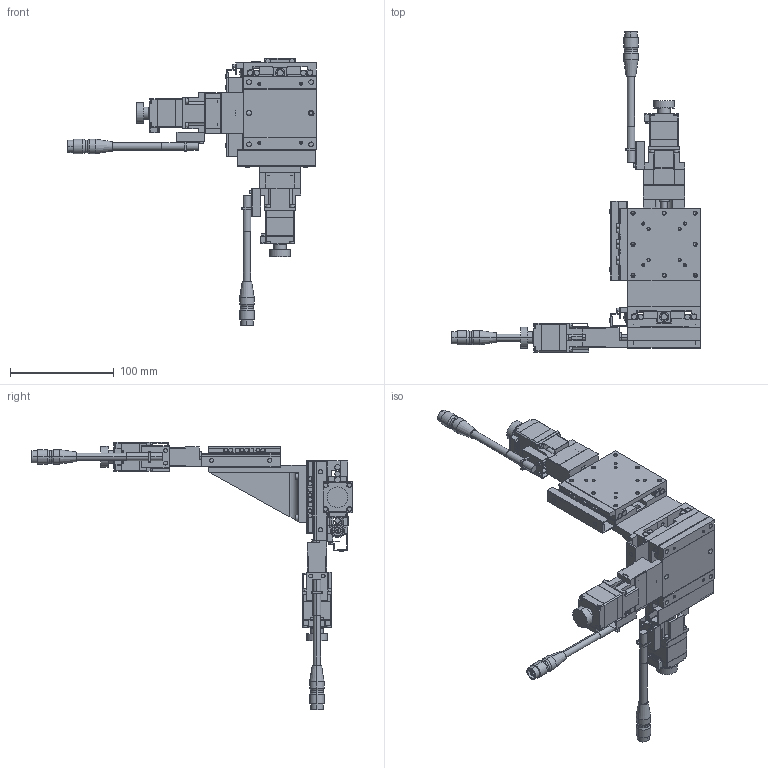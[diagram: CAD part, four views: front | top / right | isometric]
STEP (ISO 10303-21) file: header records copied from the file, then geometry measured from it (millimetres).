
FILE_DESCRIPTION(('STEP AP203'),'1');
FILE_NAME('C:/3D-Trans/3D_PMZG715T-L□-E4+240129.step','2024-03-14T06:10:15',(' '),(' '),'Spatial InterOp 3D',' ',' ');
FILE_SCHEMA(('CONFIG_CONTROL_DESIGN'));
Length unit declared in the file: millimetre
Products named in the file (19): 1; 2; 3; 4; 5; 6; 7; 8; 9; 10; 11; 12; 13; 14; 15; 16; 17; 18; 19
Bounding box: 240 x 309 x 258 mm (x, y, z)
Volume: 511328.3 mm3; surface area: 224756.5 mm2
Topology: 19 solids, 19 shells, 2306 faces, 5788 edges, 3681 vertices
Faces by surface type: plane 1265, cylinder 784, cone 254, extrusion 3
Entity records: 70351 total; most frequent: CARTESIAN_POINT 12700, DIRECTION 12218, ORIENTED_EDGE 11456, EDGE_CURVE 5728, AXIS2_PLACEMENT_3D 4207, VECTOR 3804, LINE 3801, VERTEX_POINT 3681
